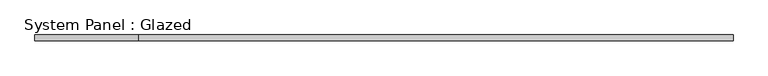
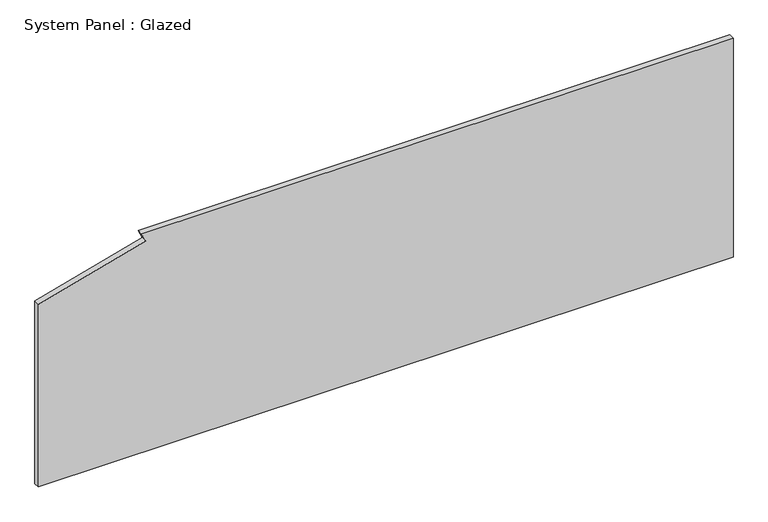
"""IFC4 building model written with IfcOpenShell, lengths in millimetres: plate geometry, System Panel : Glazed."""

from ifc_helpers import new_model, si_unit, frame, origin, place, context, project, spatial, polyline, outline, extrude, source, transform, mapped, element, save


def system_panel_glazed_45b6d7d5(model_context):
    return source(origin(), model_context, "Body", "SweptSolid", [
        extrude(outline(polyline([(0.0, -1504.95), (0.0, 1504.95), (1003.3, 1504.95), (1003.3, -1058.2789558), (965.1309017, -1039.0205037), (836.7957106, -1504.95), (0.0, -1504.95)])), frame((0.0, 19.05, 0.0), z_axis=(0.0, 1.0, 0.0), x_axis=(0.0, 0.0, 1.0)), (0.0, 0.0, 1.0), 25.4),
    ])


if __name__ == "__main__":
    model = new_model("IFC4")
    model_context = context("Model", 3, world=origin())
    ifc_project = project(units=[si_unit("LENGTHUNIT", "METRE", prefix="MILLI")], contexts=[model_context])
    site = spatial("IfcSite", under=ifc_project)
    building = spatial("IfcBuilding", under=site)
    placement = place(None, origin())
    system_panel_glazed_shape = system_panel_glazed_45b6d7d5(model_context)
    element("IfcPlate", 1, ObjectType="System Panel : Glazed", at=placement, inside=building, context=model_context, shape_type="MappedRepresentation", body=[
        mapped(system_panel_glazed_shape, transform((0.0, 0.0, 0.0), x_axis=(1.0, 0.0, 0.0), y_axis=(0.0, 1.0, 0.0), z_axis=(0.0, 0.0, 1.0))),
    ])
    save(model, "model.ifc")
